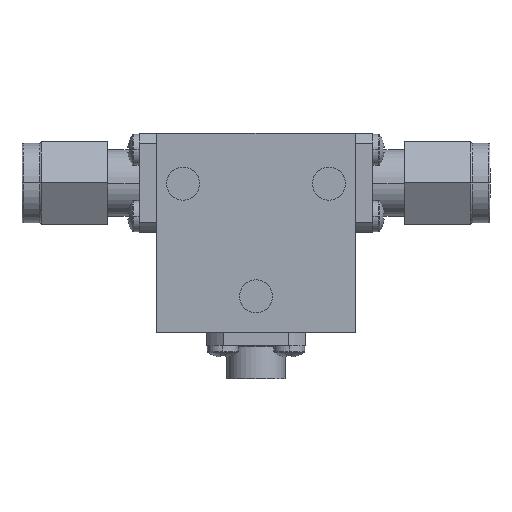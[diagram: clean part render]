
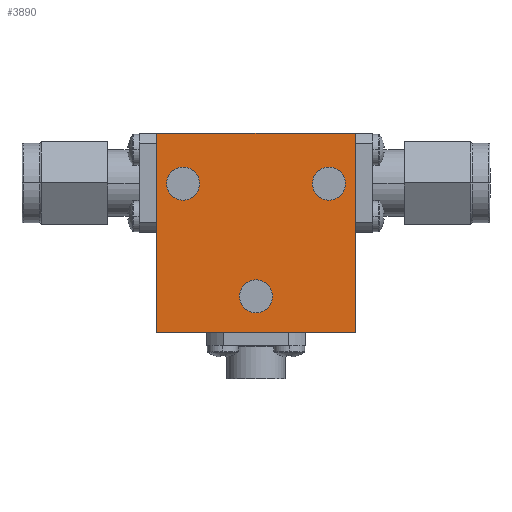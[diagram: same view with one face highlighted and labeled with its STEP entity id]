
A CAD part, top view. The second image highlights one B-rep face of the part: STEP entity #3890.
In plain terms, the highlighted planar face has unit normal (0, 0, 1) as drawn and (0, 0, -1) by its records, which use the part's own axes.
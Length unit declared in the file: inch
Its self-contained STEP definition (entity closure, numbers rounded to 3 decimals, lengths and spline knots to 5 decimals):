
#32 = CARTESIAN_POINT ( 'NONE',  ( 0., -0.24, -0.19 ) ) ;
#48 = DIRECTION ( 'NONE',  ( 1., 0., 0. ) ) ;
#61 = EDGE_CURVE ( 'NONE', #357, #2460, #3257, .T. ) ;
#85 = EDGE_CURVE ( 'NONE', #2460, #2208, #4305, .T. ) ;
#93 = ORIENTED_EDGE ( 'NONE', *, *, #3696, .T. ) ;
#130 = CARTESIAN_POINT ( 'NONE',  ( -0.3375, 0.185, -0.19 ) ) ;
#145 = DIRECTION ( 'NONE',  ( 0., 1., 0. ) ) ;
#235 = DIRECTION ( 'NONE',  ( 0., 0., 1. ) ) ;
#256 = ORIENTED_EDGE ( 'NONE', *, *, #61, .F. ) ;
#262 = DIRECTION ( 'NONE',  ( 0., 0., 1. ) ) ;
#288 = DIRECTION ( 'NONE',  ( 0., 0., 1. ) ) ;
#311 = ORIENTED_EDGE ( 'NONE', *, *, #4076, .T. ) ;
#347 = AXIS2_PLACEMENT_3D ( 'NONE', #32, #3700, #48 ) ;
#357 = VERTEX_POINT ( 'NONE', #2396 ) ;
#513 = CARTESIAN_POINT ( 'NONE',  ( -0.375, 0.375, -0.19 ) ) ;
#527 = VERTEX_POINT ( 'NONE', #3460 ) ;
#571 = CARTESIAN_POINT ( 'NONE',  ( 0., 0., -0.19 ) ) ;
#589 = CARTESIAN_POINT ( 'NONE',  ( -0.375, 0.375, -0.19 ) ) ;
#597 = ORIENTED_EDGE ( 'NONE', *, *, #1796, .T. ) ;
#610 = DIRECTION ( 'NONE',  ( 1., 0., 0. ) ) ;
#612 = CARTESIAN_POINT ( 'NONE',  ( -0.375, -0.375, -0.19 ) ) ;
#648 = LINE ( 'NONE', #513, #3235 ) ;
#663 = FACE_BOUND ( 'NONE', #2338, .T. ) ;
#718 = AXIS2_PLACEMENT_3D ( 'NONE', #4328, #262, #4239 ) ;
#1025 = DIRECTION ( 'NONE',  ( 0., 0., 1. ) ) ;
#1052 = ORIENTED_EDGE ( 'NONE', *, *, #1165, .T. ) ;
#1165 = EDGE_CURVE ( 'NONE', #1426, #3271, #3405, .T. ) ;
#1217 = DIRECTION ( 'NONE',  ( 0., -1., 0. ) ) ;
#1229 = DIRECTION ( 'NONE',  ( 1., 0., 0. ) ) ;
#1304 = ORIENTED_EDGE ( 'NONE', *, *, #4213, .T. ) ;
#1309 = AXIS2_PLACEMENT_3D ( 'NONE', #4278, #235, #1229 ) ;
#1316 = CARTESIAN_POINT ( 'NONE',  ( -0.275, 0.185, -0.19 ) ) ;
#1323 = ORIENTED_EDGE ( 'NONE', *, *, #2153, .F. ) ;
#1426 = VERTEX_POINT ( 'NONE', #4140 ) ;
#1572 = DIRECTION ( 'NONE',  ( -1., 0., 0. ) ) ;
#1775 = AXIS2_PLACEMENT_3D ( 'NONE', #571, #2567, #2542 ) ;
#1796 = EDGE_CURVE ( 'NONE', #3218, #3378, #3757, .T. ) ;
#2001 = DIRECTION ( 'NONE',  ( 1., 0., 0. ) ) ;
#2074 = CIRCLE ( 'NONE', #1309, 0.0625 ) ;
#2098 = DIRECTION ( 'NONE',  ( 1., 0., 0. ) ) ;
#2131 = VECTOR ( 'NONE', #1572, 39.37008 ) ;
#2153 = EDGE_CURVE ( 'NONE', #3426, #357, #2796, .T. ) ;
#2155 = CARTESIAN_POINT ( 'NONE',  ( 0.375, 0.375, -0.19 ) ) ;
#2208 = VERTEX_POINT ( 'NONE', #3122 ) ;
#2217 = CARTESIAN_POINT ( 'NONE',  ( -0.0625, -0.24, -0.19 ) ) ;
#2285 = FACE_BOUND ( 'NONE', #3092, .T. ) ;
#2338 = EDGE_LOOP ( 'NONE', ( #597, #1304 ) ) ;
#2343 = ORIENTED_EDGE ( 'NONE', *, *, #85, .F. ) ;
#2396 = CARTESIAN_POINT ( 'NONE',  ( 0.375, -0.375, -0.19 ) ) ;
#2447 = FACE_BOUND ( 'NONE', #3951, .T. ) ;
#2460 = VERTEX_POINT ( 'NONE', #4095 ) ;
#2542 = DIRECTION ( 'NONE',  ( 1., 0., 0. ) ) ;
#2562 = EDGE_LOOP ( 'NONE', ( #256, #1323, #3317, #2343 ) ) ;
#2567 = DIRECTION ( 'NONE',  ( 0., 0., 1. ) ) ;
#2796 = LINE ( 'NONE', #3530, #3503 ) ;
#2829 = AXIS2_PLACEMENT_3D ( 'NONE', #1316, #1025, #2001 ) ;
#3034 = VERTEX_POINT ( 'NONE', #3372 ) ;
#3092 = EDGE_LOOP ( 'NONE', ( #1052, #3158 ) ) ;
#3122 = CARTESIAN_POINT ( 'NONE',  ( -0.375, 0.375, -0.19 ) ) ;
#3158 = ORIENTED_EDGE ( 'NONE', *, *, #3965, .T. ) ;
#3218 = VERTEX_POINT ( 'NONE', #3859 ) ;
#3235 = VECTOR ( 'NONE', #1217, 39.37008 ) ;
#3256 = PLANE ( 'NONE',  #1775 ) ;
#3257 = LINE ( 'NONE', #2155, #4198 ) ;
#3269 = EDGE_CURVE ( 'NONE', #2208, #3426, #648, .T. ) ;
#3271 = VERTEX_POINT ( 'NONE', #130 ) ;
#3317 = ORIENTED_EDGE ( 'NONE', *, *, #3269, .F. ) ;
#3351 = AXIS2_PLACEMENT_3D ( 'NONE', #3658, #288, #610 ) ;
#3372 = CARTESIAN_POINT ( 'NONE',  ( 0.2125, 0.185, -0.19 ) ) ;
#3378 = VERTEX_POINT ( 'NONE', #2217 ) ;
#3405 = CIRCLE ( 'NONE', #2829, 0.0625 ) ;
#3409 = CIRCLE ( 'NONE', #347, 0.0625 ) ;
#3426 = VERTEX_POINT ( 'NONE', #612 ) ;
#3441 = DIRECTION ( 'NONE',  ( 0., 0., 1. ) ) ;
#3451 = CARTESIAN_POINT ( 'NONE',  ( 0., -0.24, -0.19 ) ) ;
#3460 = CARTESIAN_POINT ( 'NONE',  ( 0.3375, 0.185, -0.19 ) ) ;
#3503 = VECTOR ( 'NONE', #3885, 39.37008 ) ;
#3530 = CARTESIAN_POINT ( 'NONE',  ( -0.375, -0.375, -0.19 ) ) ;
#3639 = CIRCLE ( 'NONE', #718, 0.0625 ) ;
#3658 = CARTESIAN_POINT ( 'NONE',  ( 0.275, 0.185, -0.19 ) ) ;
#3696 = EDGE_CURVE ( 'NONE', #527, #3034, #3639, .T. ) ;
#3700 = DIRECTION ( 'NONE',  ( 0., 0., 1. ) ) ;
#3757 = CIRCLE ( 'NONE', #3867, 0.0625 ) ;
#3859 = CARTESIAN_POINT ( 'NONE',  ( 0.0625, -0.24, -0.19 ) ) ;
#3867 = AXIS2_PLACEMENT_3D ( 'NONE', #3451, #3441, #2098 ) ;
#3875 = CIRCLE ( 'NONE', #3351, 0.0625 ) ;
#3878 = FACE_OUTER_BOUND ( 'NONE', #2562, .T. ) ;
#3885 = DIRECTION ( 'NONE',  ( 1., 0., 0. ) ) ;
#3890 = ADVANCED_FACE ( 'NONE', ( #2447, #663, #2285, #3878 ), #3256, .F. ) ;
#3951 = EDGE_LOOP ( 'NONE', ( #93, #311 ) ) ;
#3965 = EDGE_CURVE ( 'NONE', #3271, #1426, #2074, .T. ) ;
#4076 = EDGE_CURVE ( 'NONE', #3034, #527, #3875, .T. ) ;
#4095 = CARTESIAN_POINT ( 'NONE',  ( 0.375, 0.375, -0.19 ) ) ;
#4140 = CARTESIAN_POINT ( 'NONE',  ( -0.2125, 0.185, -0.19 ) ) ;
#4198 = VECTOR ( 'NONE', #145, 39.37008 ) ;
#4213 = EDGE_CURVE ( 'NONE', #3378, #3218, #3409, .T. ) ;
#4239 = DIRECTION ( 'NONE',  ( 1., 0., 0. ) ) ;
#4278 = CARTESIAN_POINT ( 'NONE',  ( -0.275, 0.185, -0.19 ) ) ;
#4305 = LINE ( 'NONE', #589, #2131 ) ;
#4328 = CARTESIAN_POINT ( 'NONE',  ( 0.275, 0.185, -0.19 ) ) ;
